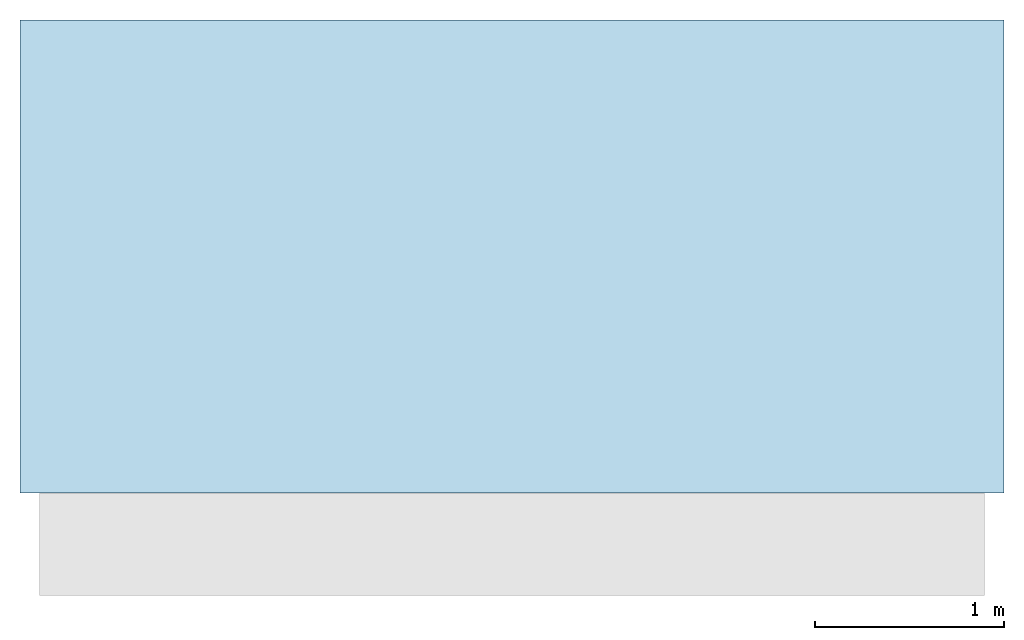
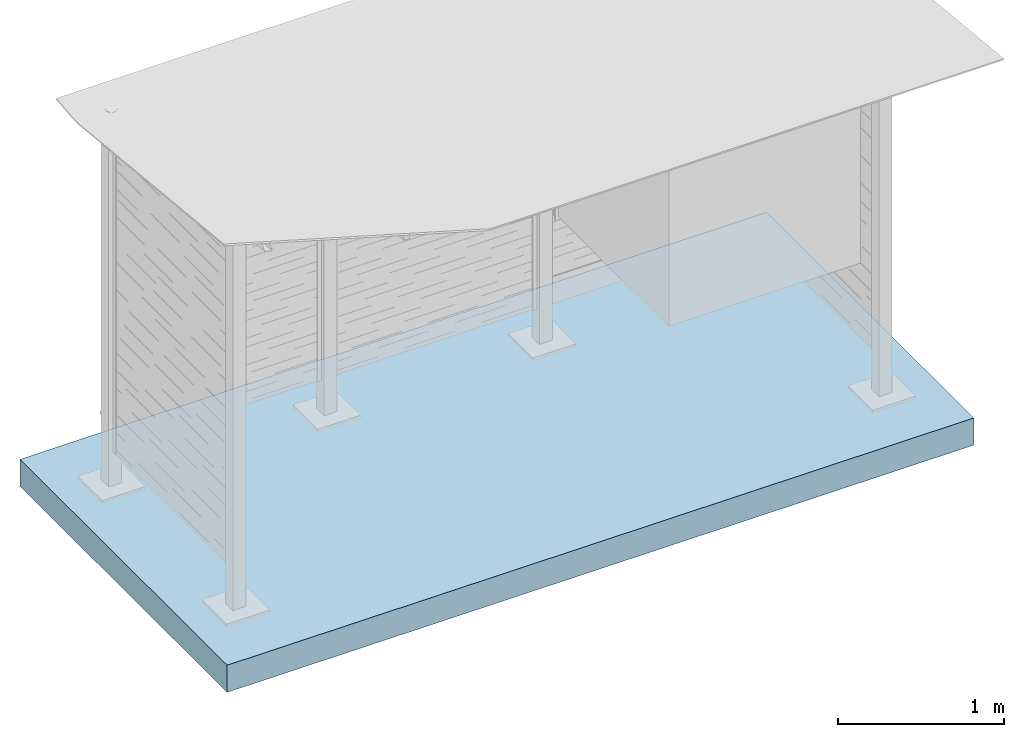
# One storey, incomplete: 1 slab.
"""IFC4 building model written with IfcOpenShell, lengths in metres."""

from ifc_helpers import new_model, entity, si_unit, converted_unit, direction, frame, origin, origin_2d_with_axis, place, context, subcontext, project, spatial, rectangle, extrude, material, type_object, element, save


model = new_model("IFC4")

# Units and contexts
model_context = context("Model", 3, precision=1e-05, world=origin(), true_north=direction((6.123031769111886e-17, 1.0)))
body_context = subcontext(model_context, "Body", "Model", "MODEL_VIEW")
ifc_project = project(units=[si_unit("LENGTHUNIT", "METRE"), converted_unit("PLANEANGLEUNIT", "DEGREE", entity("IfcPlaneAngleMeasure", 0.017453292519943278), si_unit("PLANEANGLEUNIT", "RADIAN"), dimensions=[0, 0, 0, 0, 0, 0, 0]), si_unit("AREAUNIT", "SQUARE_METRE")], contexts=[model_context])

# Site, building, storey
site_placement = place(None, origin())
site = spatial("IfcSite", under=ifc_project, at=site_placement, Name="Default", CompositionType="ELEMENT")
building_placement = place(site_placement, origin())
building = spatial("IfcBuilding", under=site, at=building_placement, CompositionType="ELEMENT")
storey_placement = place(building_placement, origin())
storey = spatial("IfcBuildingStorey", under=building, at=storey_placement, Name="Ebene 0", CompositionType="ELEMENT", Elevation=0.0)

# Slab
ifc_material = material(Name="DB_Ortbeton", Category="DB_Beton")
slab_type = type_object("IfcSlabType", Name="DB_Wetterschutzhaus_3-feldrig_Fundament:DB_Wetterschutzhaus_3-feldrig_Fundament", PredefinedType="BASESLAB", material=ifc_material)
slab_placement = place(storey_placement, origin())
element("IfcSlab", 1, at=slab_placement, inside=storey, type_object=slab_type, Name="DB_Wetterschutzhaus_3-feldrig_Fundament:DB_Wetterschutzhaus_3-feldrig_Fundament", ObjectType="DB_Wetterschutzhaus_3-feldrig_Fundament:DB_Wetterschutzhaus_3-feldrig_Fundament", PredefinedType="BASESLAB", context=body_context, shape_type="SweptSolid", body=[
    extrude(rectangle(XDim=2.4999999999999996, YDim=5.2, at=origin_2d_with_axis()), frame((2.252052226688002, 0.7500000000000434, 0.0), z_axis=(0.0, 0.0, 1.0), x_axis=(0.0, 1.0, 0.0)), (0.0, 0.0, 1.0), 0.2),
])

save(model, "model.ifc")
